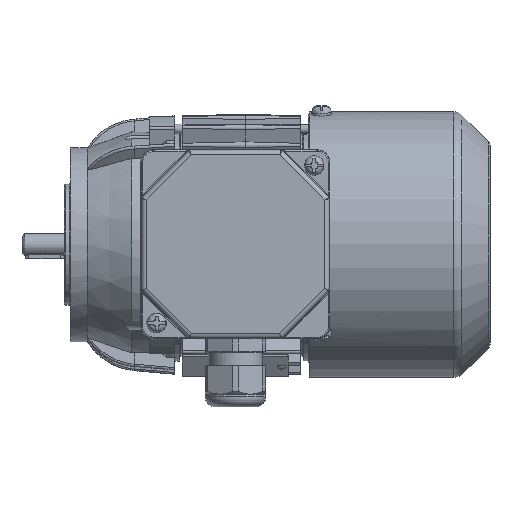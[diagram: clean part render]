
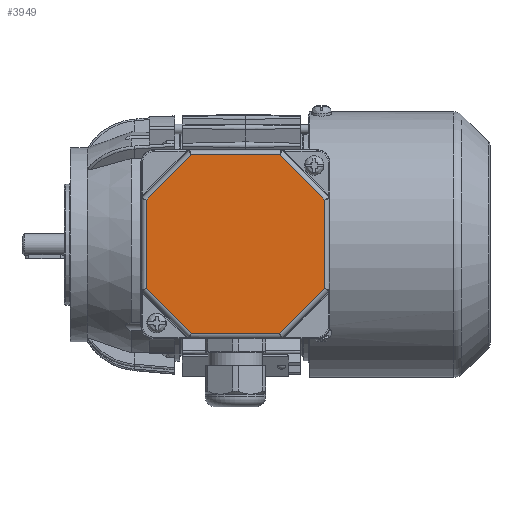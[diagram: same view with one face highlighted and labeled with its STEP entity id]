
A CAD part, top view. The second image highlights one B-rep face of the part: STEP entity #3949.
In plain terms, the highlighted planar face has unit normal (0, 0, 1).
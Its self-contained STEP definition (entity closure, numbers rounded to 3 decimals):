
#3949 = ADVANCED_FACE( '', ( #8380 ), #8381, .T. );
#8380 = FACE_OUTER_BOUND( '', #16604, .T. );
#8381 = PLANE( '', #16605 );
#16604 = EDGE_LOOP( '', ( #29339, #29340, #29341, #29342, #29343, #29344, #29345, #29346 ) );
#16605 = AXIS2_PLACEMENT_3D( '', #29347, #29348, #29349 );
#29339 = ORIENTED_EDGE( '', *, *, #39599, .T. );
#29340 = ORIENTED_EDGE( '', *, *, #40264, .T. );
#29341 = ORIENTED_EDGE( '', *, *, #38691, .T. );
#29342 = ORIENTED_EDGE( '', *, *, #39887, .T. );
#29343 = ORIENTED_EDGE( '', *, *, #40265, .T. );
#29344 = ORIENTED_EDGE( '', *, *, #37292, .T. );
#29345 = ORIENTED_EDGE( '', *, *, #38578, .T. );
#29346 = ORIENTED_EDGE( '', *, *, #40266, .T. );
#29347 = CARTESIAN_POINT( '', ( -39., 39., 12. ) );
#29348 = DIRECTION( '', ( 0., 0., 1. ) );
#29349 = DIRECTION( '', ( 1., 0., 0. ) );
#37292 = EDGE_CURVE( '', #43806, #43807, #43808, .T. );
#38578 = EDGE_CURVE( '', #43807, #45973, #45974, .F. );
#38691 = EDGE_CURVE( '', #44660, #46150, #46151, .F. );
#39599 = EDGE_CURVE( '', #47471, #47469, #47472, .F. );
#39887 = EDGE_CURVE( '', #46150, #47886, #47887, .T. );
#40264 = EDGE_CURVE( '', #47469, #44660, #48392, .T. );
#40265 = EDGE_CURVE( '', #47886, #43806, #48393, .F. );
#40266 = EDGE_CURVE( '', #45973, #47471, #48394, .T. );
#43806 = VERTEX_POINT( '', #53827 );
#43807 = VERTEX_POINT( '', #53828 );
#43808 = LINE( '', #53829, #53830 );
#44660 = VERTEX_POINT( '', #55082 );
#45973 = VERTEX_POINT( '', #57769 );
#45974 = LINE( '', #57770, #57771 );
#46150 = VERTEX_POINT( '', #58114 );
#46151 = LINE( '', #58115, #58116 );
#47469 = VERTEX_POINT( '', #60655 );
#47471 = VERTEX_POINT( '', #60657 );
#47472 = LINE( '', #60658, #60659 );
#47886 = VERTEX_POINT( '', #61537 );
#47887 = LINE( '', #61538, #61539 );
#48392 = LINE( '', #62598, #62599 );
#48393 = LINE( '', #62600, #62601 );
#48394 = LINE( '', #62602, #62603 );
#53827 = CARTESIAN_POINT( '', ( -36.825, -18.255, 12. ) );
#53828 = CARTESIAN_POINT( '', ( -18.255, -36.825, 12. ) );
#53829 = CARTESIAN_POINT( '', ( -17.679, -37.401, 12. ) );
#53830 = VECTOR( '', #68201, 1000. );
#55082 = CARTESIAN_POINT( '', ( 18.255, 36.825, 12. ) );
#57769 = CARTESIAN_POINT( '', ( 18.255, -36.825, 12. ) );
#57770 = CARTESIAN_POINT( '', ( 19.069, -36.825, 12. ) );
#57771 = VECTOR( '', #70003, 1000. );
#58114 = CARTESIAN_POINT( '', ( -18.255, 36.825, 12. ) );
#58115 = CARTESIAN_POINT( '', ( -19.069, 36.825, 12. ) );
#58116 = VECTOR( '', #70137, 1000. );
#60655 = CARTESIAN_POINT( '', ( 36.825, 18.255, 12. ) );
#60657 = CARTESIAN_POINT( '', ( 36.825, -18.255, 12. ) );
#60658 = CARTESIAN_POINT( '', ( 36.825, 19.069, 12. ) );
#60659 = VECTOR( '', #71101, 1000. );
#61537 = CARTESIAN_POINT( '', ( -36.825, 18.255, 12. ) );
#61538 = CARTESIAN_POINT( '', ( -37.401, 17.679, 12. ) );
#61539 = VECTOR( '', #71476, 1000. );
#62598 = CARTESIAN_POINT( '', ( 17.679, 37.401, 12. ) );
#62599 = VECTOR( '', #71894, 1000. );
#62600 = CARTESIAN_POINT( '', ( -36.825, -19.069, 12. ) );
#62601 = VECTOR( '', #71895, 1000. );
#62602 = CARTESIAN_POINT( '', ( 37.401, -17.679, 12. ) );
#62603 = VECTOR( '', #71896, 1000. );
#68201 = DIRECTION( '', ( 0.707, -0.707, 0. ) );
#70003 = DIRECTION( '', ( -1., 0., 0. ) );
#70137 = DIRECTION( '', ( 1., 0., 0. ) );
#71101 = DIRECTION( '', ( 0., -1., 0. ) );
#71476 = DIRECTION( '', ( -0.707, -0.707, 0. ) );
#71894 = DIRECTION( '', ( -0.707, 0.707, 0. ) );
#71895 = DIRECTION( '', ( 0., 1., 0. ) );
#71896 = DIRECTION( '', ( 0.707, 0.707, 0. ) );
